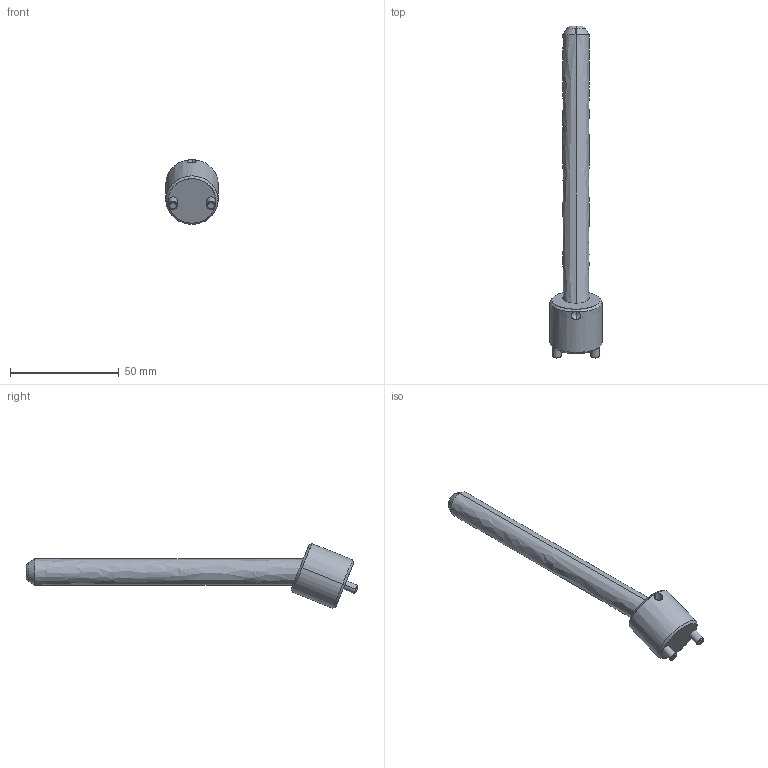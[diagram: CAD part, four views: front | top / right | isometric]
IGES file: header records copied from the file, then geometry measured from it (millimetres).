
Start section: START RECORD GO HERE.
Global section: file name: CI2212125.igs; native system: DASSAULT SYSTEMES CATIA V5 R20 - www.3ds.com; preprocessor: CATIA Version 5 Release 20 ; author: r.borello; organization: CFTORINO; date: 20190621.122210; units: millimetre
Bounding box: 24 x 152.46 x 29.7 mm (x, y, z)
Surface area: 8895.5 mm2 (no closed solid volume)
Topology: 0 solids, 0 shells, 39 faces, 168 edges, 166 vertices
Faces by surface type: revolution 32, plane 7
